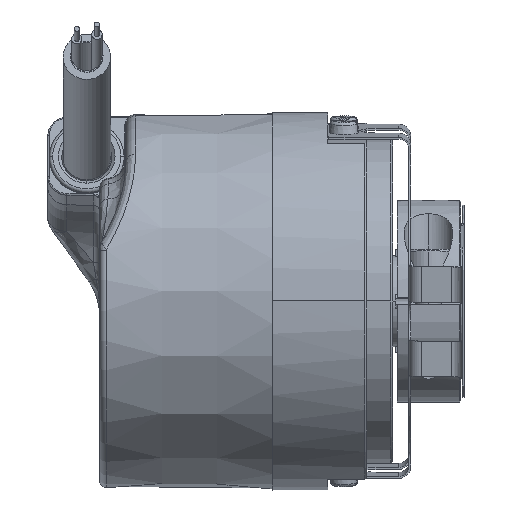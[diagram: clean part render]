
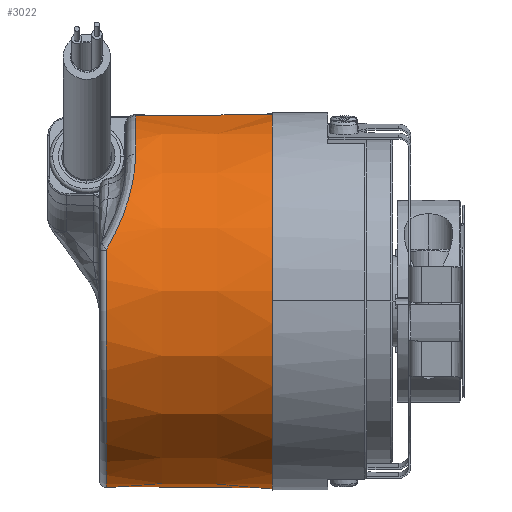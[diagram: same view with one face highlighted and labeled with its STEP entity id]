
A CAD part, top view. The second image highlights one B-rep face of the part: STEP entity #3022.
In plain terms, the highlighted conical face has half-angle 0.5 degrees and reference radius 29 mm.
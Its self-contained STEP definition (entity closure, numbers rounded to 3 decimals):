
#3012 = ORIENTED_EDGE ( 'NONE', *, *, #3899, .T. ) ;
#3013 = ORIENTED_EDGE ( 'NONE', *, *, #3891, .T. ) ;
#3018 = EDGE_LOOP ( 'NONE', ( #3020, #3021, #3023, #3012, #3013, #3024 ) ) ;
#3020 = ORIENTED_EDGE ( 'NONE', *, *, #3860, .F. ) ;
#3021 = ORIENTED_EDGE ( 'NONE', *, *, #3863, .T. ) ;
#3022 = ADVANCED_FACE ( 'NONE', ( #23217 ), #23260, .T. ) ;
#3023 = ORIENTED_EDGE ( 'NONE', *, *, #3055, .T. ) ;
#3024 = ORIENTED_EDGE ( 'NONE', *, *, #3025, .F. ) ;
#3025 = EDGE_CURVE ( 'NONE', #3822, #3857, #23259, .T. ) ;
#3055 = EDGE_CURVE ( 'NONE', #3865, #3916, #23523, .T. ) ;
#3819 = VERTEX_POINT ( 'NONE', #14134 ) ;
#3822 = VERTEX_POINT ( 'NONE', #14132 ) ;
#3857 = VERTEX_POINT ( 'NONE', #14275 ) ;
#3860 = EDGE_CURVE ( 'NONE', #3864, #3822, #14272, .T. ) ;
#3863 = EDGE_CURVE ( 'NONE', #3864, #3865, #14305, .T. ) ;
#3864 = VERTEX_POINT ( 'NONE', #14300 ) ;
#3865 = VERTEX_POINT ( 'NONE', #14299 ) ;
#3891 = EDGE_CURVE ( 'NONE', #3819, #3857, #14365, .T. ) ;
#3899 = EDGE_CURVE ( 'NONE', #3916, #3819, #14389, .T. ) ;
#3916 = VERTEX_POINT ( 'NONE', #14456 ) ;
#14132 = CARTESIAN_POINT ( 'NONE',  ( 7.5, 28.684, 3.522 ) ) ;
#14134 = CARTESIAN_POINT ( 'NONE',  ( -18.009, -28.463, -3.495 ) ) ;
#14268 = DIRECTION ( 'NONE',  ( 1., 0.009, 0.001 ) ) ;
#14269 = VECTOR ( 'NONE', #14268, 1000. ) ;
#14270 = CARTESIAN_POINT ( 'NONE',  ( 19., 28.784, 3.534 ) ) ;
#14272 = LINE ( 'NONE', #14270, #14269 ) ;
#14275 = CARTESIAN_POINT ( 'NONE',  ( 7.5, -28.684, -3.522 ) ) ;
#14299 = CARTESIAN_POINT ( 'NONE',  ( -13.513, 22.576, 17.747 ) ) ;
#14300 = CARTESIAN_POINT ( 'NONE',  ( -13.513, 28.502, 3.5 ) ) ;
#14301 = DIRECTION ( 'NONE',  ( 0., -0.993, -0.122 ) ) ;
#14302 = DIRECTION ( 'NONE',  ( 1., 0., 0. ) ) ;
#14303 = CARTESIAN_POINT ( 'NONE',  ( -13.513, 0., 0. ) ) ;
#14304 = AXIS2_PLACEMENT_3D ( 'NONE', #14303, #14302, #14301 ) ;
#14305 = CIRCLE ( 'NONE', #14304, 28.716 ) ;
#14362 = DIRECTION ( 'NONE',  ( 1., -0.009, -0.001 ) ) ;
#14363 = VECTOR ( 'NONE', #14362, 1000. ) ;
#14364 = CARTESIAN_POINT ( 'NONE',  ( 19., -28.784, -3.534 ) ) ;
#14365 = LINE ( 'NONE', #14364, #14363 ) ;
#14386 = DIRECTION ( 'NONE',  ( 0., 0.993, 0.122 ) ) ;
#14387 = DIRECTION ( 'NONE',  ( 1., 0., 0. ) ) ;
#14388 = AXIS2_PLACEMENT_3D ( 'NONE', #14396, #14387, #14386 ) ;
#14389 = CIRCLE ( 'NONE', #14388, 28.677 ) ;
#14396 = CARTESIAN_POINT ( 'NONE',  ( -18.009, 0., 0. ) ) ;
#14456 = CARTESIAN_POINT ( 'NONE',  ( -18.009, 7.822, 27.59 ) ) ;
#23217 = FACE_OUTER_BOUND ( 'NONE', #3018, .T. ) ;
#23250 = DIRECTION ( 'NONE',  ( 0., -0.993, -0.122 ) ) ;
#23251 = DIRECTION ( 'NONE',  ( 1., 0., 0. ) ) ;
#23252 = CARTESIAN_POINT ( 'NONE',  ( 7.5, 0., 0. ) ) ;
#23253 = AXIS2_PLACEMENT_3D ( 'NONE', #23252, #23251, #23250 ) ;
#23255 = DIRECTION ( 'NONE',  ( 0., -0.993, -0.122 ) ) ;
#23256 = DIRECTION ( 'NONE',  ( 1., 0., 0. ) ) ;
#23257 = CARTESIAN_POINT ( 'NONE',  ( 19., 0., 0. ) ) ;
#23258 = AXIS2_PLACEMENT_3D ( 'NONE', #23257, #23256, #23255 ) ;
#23259 = CIRCLE ( 'NONE', #23253, 28.9 ) ;
#23260 = CONICAL_SURFACE ( 'NONE', #23258, 29., 0.009 ) ;
#23502 = CARTESIAN_POINT ( 'NONE',  ( -18.009, 7.822, 27.59 ) ) ;
#23503 = CARTESIAN_POINT ( 'NONE',  ( -17.619, 8.483, 27.406 ) ) ;
#23504 = CARTESIAN_POINT ( 'NONE',  ( -17.253, 9.148, 27.195 ) ) ;
#23505 = CARTESIAN_POINT ( 'NONE',  ( -16.572, 10.484, 26.715 ) ) ;
#23506 = CARTESIAN_POINT ( 'NONE',  ( -16.255, 11.157, 26.444 ) ) ;
#23507 = CARTESIAN_POINT ( 'NONE',  ( -15.389, 13.156, 25.549 ) ) ;
#23508 = CARTESIAN_POINT ( 'NONE',  ( -14.923, 14.459, 24.842 ) ) ;
#23509 = CARTESIAN_POINT ( 'NONE',  ( -14.374, 16.358, 23.605 ) ) ;
#23510 = CARTESIAN_POINT ( 'NONE',  ( -14.216, 16.981, 23.163 ) ) ;
#23511 = CARTESIAN_POINT ( 'NONE',  ( -14.016, 17.9, 22.453 ) ) ;
#23512 = CARTESIAN_POINT ( 'NONE',  ( -13.955, 18.204, 22.207 ) ) ;
#23513 = CARTESIAN_POINT ( 'NONE',  ( -13.846, 18.801, 21.705 ) ) ;
#23514 = CARTESIAN_POINT ( 'NONE',  ( -13.798, 19.095, 21.448 ) ) ;
#23515 = CARTESIAN_POINT ( 'NONE',  ( -13.587, 20.534, 20.134 ) ) ;
#23516 = CARTESIAN_POINT ( 'NONE',  ( -13.513, 21.6, 18.988 ) ) ;
#23517 = CARTESIAN_POINT ( 'NONE',  ( -13.513, 22.576, 17.747 ) ) ;
#23523 = B_SPLINE_CURVE_WITH_KNOTS ( 'NONE', 3,
 ( #23517, #23516, #23515, #23514, #23513, #23512, #23511, #23510, #23509, #23508, #23507, #23506, #23505, #23504, #23503, #23502 ),
 .UNSPECIFIED., .F., .F.,
 ( 4, 2, 2, 2, 2, 2, 2, 4 ),
 ( 0., 0.005, 0.006, 0.007, 0.009, 0.014, 0.016, 0.019 ),
 .UNSPECIFIED. ) ;
